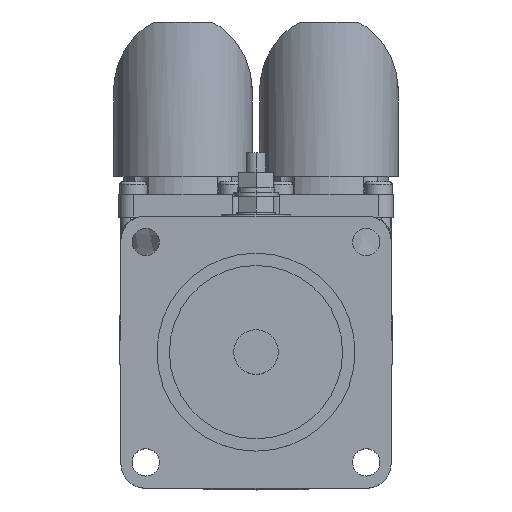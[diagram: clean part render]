
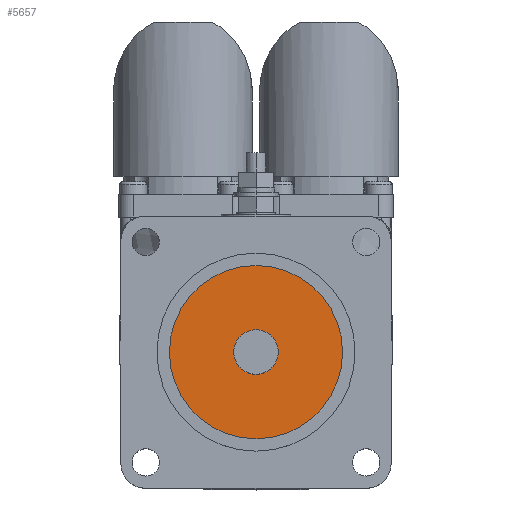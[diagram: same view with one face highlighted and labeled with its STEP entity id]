
A CAD part, top view. The second image highlights one B-rep face of the part: STEP entity #5657.
In plain terms, the highlighted planar face has unit normal (0, 0, 1).
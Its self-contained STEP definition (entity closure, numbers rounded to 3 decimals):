
#372 = CIRCLE ( 'NONE', #3104, 4.5 ) ;
#388 = CIRCLE ( 'NONE', #3121, 17.5 ) ;
#427 = CIRCLE ( 'NONE', #3137, 17.5 ) ;
#429 = CIRCLE ( 'NONE', #3139, 4.5 ) ;
#927 = FACE_OUTER_BOUND ( 'NONE', #1144, .T. ) ;
#932 = FACE_BOUND ( 'NONE', #1148, .T. ) ;
#1144 = EDGE_LOOP ( 'NONE', ( #4824, #4825 ) ) ;
#1148 = EDGE_LOOP ( 'NONE', ( #4826, #4827 ) ) ;
#3104 = AXIS2_PLACEMENT_3D ( 'NONE', #12597, #12615, #12616 ) ;
#3121 = AXIS2_PLACEMENT_3D ( 'NONE', #12643, #12645, #12646 ) ;
#3137 = AXIS2_PLACEMENT_3D ( 'NONE', #12700, #12703, #12704 ) ;
#3139 = AXIS2_PLACEMENT_3D ( 'NONE', #12698, #12705, #12706 ) ;
#3400 = AXIS2_PLACEMENT_3D ( 'NONE', #13658, #13660, #13661 ) ;
#4824 = ORIENTED_EDGE ( 'NONE', *, *, #5132, .T. ) ;
#4825 = ORIENTED_EDGE ( 'NONE', *, *, #5108, .T. ) ;
#4826 = ORIENTED_EDGE ( 'NONE', *, *, #5133, .F. ) ;
#4827 = ORIENTED_EDGE ( 'NONE', *, *, #5096, .F. ) ;
#5096 = EDGE_CURVE ( 'NONE', #12325, #12326, #372, .T. ) ;
#5108 = EDGE_CURVE ( 'NONE', #12331, #12332, #388, .T. ) ;
#5132 = EDGE_CURVE ( 'NONE', #12332, #12331, #427, .T. ) ;
#5133 = EDGE_CURVE ( 'NONE', #12326, #12325, #429, .T. ) ;
#5657 = ADVANCED_FACE ( 'NONE', ( #927, #932 ), #13659, .T. ) ;
#11396 = CARTESIAN_POINT ( 'NONE',  ( 4.5, 0., 128.5 ) ) ;
#11397 = CARTESIAN_POINT ( 'NONE',  ( -4.5, 0., 128.5 ) ) ;
#11402 = CARTESIAN_POINT ( 'NONE',  ( -17.5, 0., 128.5 ) ) ;
#11403 = CARTESIAN_POINT ( 'NONE',  ( 17.5, 0., 128.5 ) ) ;
#12325 = VERTEX_POINT ( 'NONE', #11396 ) ;
#12326 = VERTEX_POINT ( 'NONE', #11397 ) ;
#12331 = VERTEX_POINT ( 'NONE', #11402 ) ;
#12332 = VERTEX_POINT ( 'NONE', #11403 ) ;
#12597 = CARTESIAN_POINT ( 'NONE',  ( 0., 0., 128.5 ) ) ;
#12615 = DIRECTION ( 'NONE',  ( 0., 0., 1. ) ) ;
#12616 = DIRECTION ( 'NONE',  ( 1., 0., 0. ) ) ;
#12643 = CARTESIAN_POINT ( 'NONE',  ( 0., 0., 128.5 ) ) ;
#12645 = DIRECTION ( 'NONE',  ( 0., 0., 1. ) ) ;
#12646 = DIRECTION ( 'NONE',  ( 1., 0., 0. ) ) ;
#12698 = CARTESIAN_POINT ( 'NONE',  ( 0., 0., 128.5 ) ) ;
#12700 = CARTESIAN_POINT ( 'NONE',  ( 0., 0., 128.5 ) ) ;
#12703 = DIRECTION ( 'NONE',  ( 0., 0., 1. ) ) ;
#12704 = DIRECTION ( 'NONE',  ( 1., 0., 0. ) ) ;
#12705 = DIRECTION ( 'NONE',  ( 0., 0., 1. ) ) ;
#12706 = DIRECTION ( 'NONE',  ( 1., 0., 0. ) ) ;
#13658 = CARTESIAN_POINT ( 'NONE',  ( 0., 0., 128.5 ) ) ;
#13659 = PLANE ( 'NONE',  #3400 ) ;
#13660 = DIRECTION ( 'NONE',  ( 0., 0., 1. ) ) ;
#13661 = DIRECTION ( 'NONE',  ( 1., 0., 0. ) ) ;
